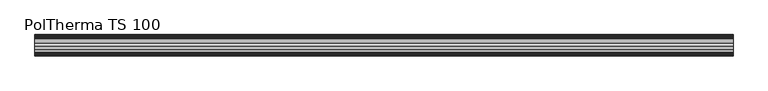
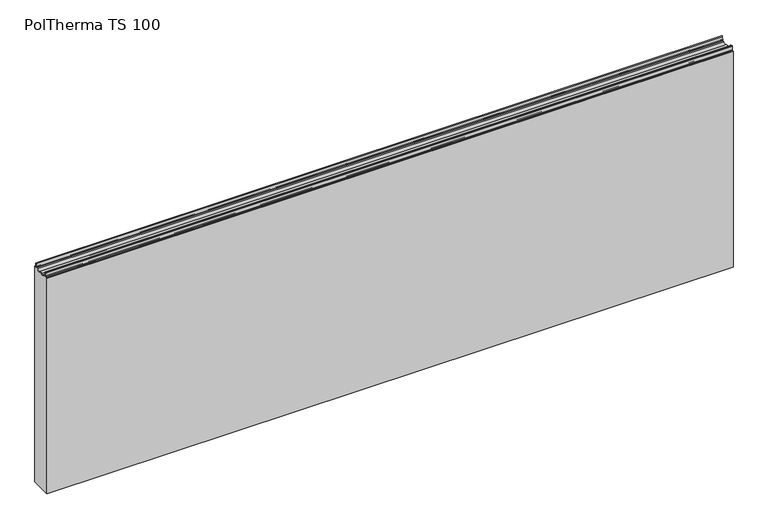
"""IFC4 building model written with IfcOpenShell, lengths in millimetres: plate geometry, Europanels_Poltherma TS_Hz : PolTherma TS 100."""

from ifc_helpers import new_model, si_unit, point, frame, frame_2d, origin, place, context, project, spatial, polyline, circle_curve, trimmed, segment, composite_curve, outline, extrude, source, transform, mapped, element, save


def poltherma_ts_100_7b695300(model_context):
    return source(origin(), model_context, "Body", "SweptSolid", [
        extrude(outline(composite_curve([segment(trimmed(circle_curve(frame_2d((-48.0, 1096.5011047)), 2.0), [point((-50.0, 1096.5011047))], [point((-48.0, 1098.5011047))], False, "CARTESIAN"), True, "CONTINUOUS"), segment(polyline([(-48.0, 1098.5011047), (-44.244573, 1098.5011047)]), True, "CONTINUOUS"), segment(trimmed(circle_curve(frame_2d((-44.244573, 1100.5011047)), 2.0), [point((-44.244573, 1098.5011047))], [point((-42.2483736, 1100.3778643))], True, "CARTESIAN"), True, "CONTINUOUS"), segment(polyline([(-42.2483736, 1100.3778643), (-41.1836192, 1117.624345)]), True, "CONTINUOUS"), segment(trimmed(circle_curve(frame_2d((-39.1874198, 1117.5011047)), 2.0), [point((-41.1836192, 1117.624345))], [point((-39.1874198, 1119.5011047))], False, "CARTESIAN"), True, "CONTINUOUS"), segment(polyline([(-39.1874198, 1119.5011047), (-36.4480373, 1119.5011047)]), True, "CONTINUOUS"), segment(trimmed(circle_curve(frame_2d((-36.4480373, 1117.5011047)), 2.0), [point((-36.4480373, 1119.5011047))], [point((-34.4498501, 1117.5862394))], False, "CARTESIAN"), True, "CONTINUOUS"), segment(polyline([(-34.4498501, 1117.5862394), (-33.7101357, 1100.2244834)]), True, "CONTINUOUS"), segment(trimmed(circle_curve(frame_2d((-31.9117672, 1100.3011047)), 1.8), [point((-33.7101357, 1100.2244834))], [point((-31.9117672, 1098.5011047))], True, "CARTESIAN"), True, "CONTINUOUS"), segment(polyline([(-31.9117672, 1098.5011047), (-22.9234285, 1098.5011047)]), True, "CONTINUOUS"), segment(trimmed(circle_curve(frame_2d((-12.3, 1101.354658)), 11.0), [point((-22.9234285, 1098.5011047))], [point((-4.05, 1094.0788419))], True, "CARTESIAN"), True, "CONTINUOUS"), segment(trimmed(circle_curve(frame_2d((2.7, 1088.1259015)), 9.0), [point((-4.05, 1094.0788419))], [point((9.45, 1094.0788419))], False, "CARTESIAN"), True, "CONTINUOUS"), segment(trimmed(circle_curve(frame_2d((17.7, 1101.354658)), 11.0), [point((9.45, 1094.0788419))], [point((28.3234285, 1098.5011047))], True, "CARTESIAN"), True, "CONTINUOUS"), segment(polyline([(28.3234285, 1098.5011047), (36.113894, 1098.5011047)]), True, "CONTINUOUS"), segment(trimmed(circle_curve(frame_2d((36.113894, 1100.5011047)), 2.0), [point((36.113894, 1098.5011047))], [point((38.1120505, 1100.4152514))], True, "CARTESIAN"), True, "CONTINUOUS"), segment(polyline([(38.1120505, 1100.4152514), (38.8418822, 1117.4014159)]), True, "CONTINUOUS"), segment(trimmed(circle_curve(frame_2d((41.019533, 1117.3078504)), 2.1796599), [point((38.8418822, 1117.4014159))], [point((43.1949638, 1117.4435621))], False, "CARTESIAN"), True, "CONTINUOUS"), segment(polyline([(43.1949638, 1117.4435621), (44.2596673, 1100.3765791)]), True, "CONTINUOUS"), segment(trimmed(circle_curve(frame_2d((46.2557869, 1100.5011047)), 2.0), [point((44.2596673, 1100.3765791))], [point((46.2557869, 1098.5011047))], True, "CARTESIAN"), True, "CONTINUOUS"), segment(polyline([(46.2557869, 1098.5011047), (48.0, 1098.5011047)]), True, "CONTINUOUS"), segment(trimmed(circle_curve(frame_2d((48.0, 1096.5011047)), 2.0), [point((48.0, 1098.5011047))], [point((50.0, 1096.5011047))], False, "CARTESIAN"), True, "CONTINUOUS"), segment(polyline([(50.0, 1096.5011047), (50.0, 0.0), (-50.0, 0.0), (-50.0, 1096.5011047)]), True, "CONTINUOUS")], self_intersect=False)), frame((-1650.0, 0.0, 0.0), z_axis=(1.0, 0.0, 0.0), x_axis=(0.0, 1.0, 0.0)), (0.0, 0.0, 1.0), 3300.0),
    ])


if __name__ == "__main__":
    model = new_model("IFC4")
    model_context = context("Model", 3, world=origin())
    ifc_project = project(units=[si_unit("LENGTHUNIT", "METRE", prefix="MILLI")], contexts=[model_context])
    site = spatial("IfcSite", under=ifc_project)
    building = spatial("IfcBuilding", under=site)
    placement = place(None, origin())
    poltherma_ts_100_shape = poltherma_ts_100_7b695300(model_context)
    element("IfcPlate", 1, ObjectType="Europanels_Poltherma TS_Hz : PolTherma TS 100", at=placement, inside=building, context=model_context, shape_type="MappedRepresentation", body=[
        mapped(poltherma_ts_100_shape, transform((0.0, 0.0, 0.0), x_axis=(1.0, 0.0, 0.0), y_axis=(0.0, 1.0, 0.0), z_axis=(0.0, 0.0, 1.0))),
    ])
    save(model, "model.ifc")
